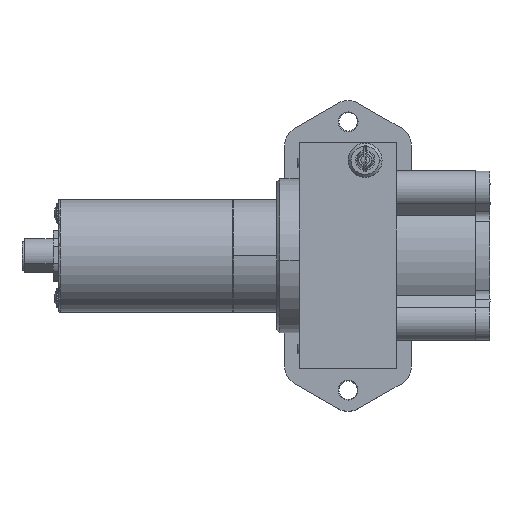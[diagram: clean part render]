
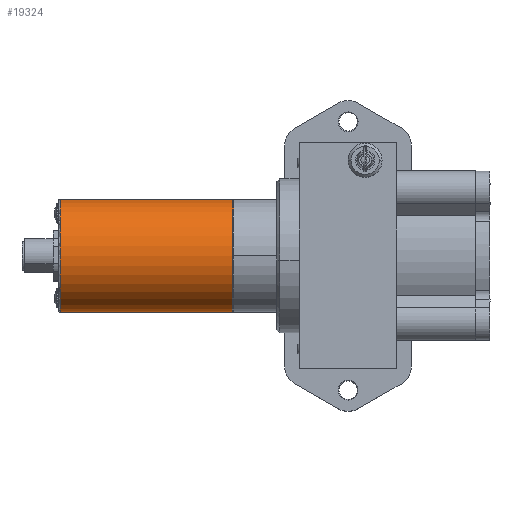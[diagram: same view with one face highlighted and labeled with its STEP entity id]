
A CAD part, top view. The second image highlights one B-rep face of the part: STEP entity #19324.
In plain terms, the highlighted cylindrical face has radius 20 mm (diameter 40 mm), a partial arc.
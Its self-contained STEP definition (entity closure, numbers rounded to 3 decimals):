
#3652 = CYLINDRICAL_SURFACE ( 'NONE', #3714, 20. ) ;
#3673 = FACE_OUTER_BOUND ( 'NONE', #19325, .T. ) ;
#3674 = CARTESIAN_POINT ( 'NONE',  ( -114.23, -20., 0. ) ) ;
#3691 = DIRECTION ( 'NONE',  ( 1., 0., 0. ) ) ;
#3692 = VECTOR ( 'NONE', #3691, 1000. ) ;
#3693 = CARTESIAN_POINT ( 'NONE',  ( -52.73, 20., 0. ) ) ;
#3694 = LINE ( 'NONE', #3693, #3692 ) ;
#3696 = CARTESIAN_POINT ( 'NONE',  ( -52.73, 20., 0. ) ) ;
#3697 = DIRECTION ( 'NONE',  ( 0., 1., 0. ) ) ;
#3698 = DIRECTION ( 'NONE',  ( -1., 0., 0. ) ) ;
#3699 = CARTESIAN_POINT ( 'NONE',  ( -52.73, 0., 0. ) ) ;
#3700 = AXIS2_PLACEMENT_3D ( 'NONE', #3699, #3698, #3697 ) ;
#3701 = CIRCLE ( 'NONE', #3700, 20. ) ;
#3702 = CARTESIAN_POINT ( 'NONE',  ( -52.73, -20., 0. ) ) ;
#3703 = DIRECTION ( 'NONE',  ( 1., 0., 0. ) ) ;
#3704 = VECTOR ( 'NONE', #3703, 1000. ) ;
#3705 = CARTESIAN_POINT ( 'NONE',  ( -52.73, -20., 0. ) ) ;
#3706 = LINE ( 'NONE', #3705, #3704 ) ;
#3707 = DIRECTION ( 'NONE',  ( 0., 1., 0. ) ) ;
#3708 = DIRECTION ( 'NONE',  ( 1., 0., 0. ) ) ;
#3709 = CARTESIAN_POINT ( 'NONE',  ( -114.23, 0., 0. ) ) ;
#3710 = AXIS2_PLACEMENT_3D ( 'NONE', #3709, #3708, #3707 ) ;
#3711 = DIRECTION ( 'NONE',  ( 0., 1., 0. ) ) ;
#3712 = DIRECTION ( 'NONE',  ( 1., 0., 0. ) ) ;
#3713 = CARTESIAN_POINT ( 'NONE',  ( -52.73, 0., 0. ) ) ;
#3714 = AXIS2_PLACEMENT_3D ( 'NONE', #3713, #3712, #3711 ) ;
#3715 = CIRCLE ( 'NONE', #3710, 20. ) ;
#3778 = CARTESIAN_POINT ( 'NONE',  ( -114.23, 20., 0. ) ) ;
#19321 = VERTEX_POINT ( 'NONE', #3674 ) ;
#19324 = ADVANCED_FACE ( 'NONE', ( #3673 ), #3652, .T. ) ;
#19325 = EDGE_LOOP ( 'NONE', ( #19326, #19328, #19331, #19334 ) ) ;
#19326 = ORIENTED_EDGE ( 'NONE', *, *, #19327, .T. ) ;
#19327 = EDGE_CURVE ( 'NONE', #19356, #19321, #3715, .T. ) ;
#19328 = ORIENTED_EDGE ( 'NONE', *, *, #19329, .T. ) ;
#19329 = EDGE_CURVE ( 'NONE', #19321, #19330, #3706, .T. ) ;
#19330 = VERTEX_POINT ( 'NONE', #3702 ) ;
#19331 = ORIENTED_EDGE ( 'NONE', *, *, #19332, .T. ) ;
#19332 = EDGE_CURVE ( 'NONE', #19330, #19333, #3701, .T. ) ;
#19333 = VERTEX_POINT ( 'NONE', #3696 ) ;
#19334 = ORIENTED_EDGE ( 'NONE', *, *, #19335, .F. ) ;
#19335 = EDGE_CURVE ( 'NONE', #19356, #19333, #3694, .T. ) ;
#19356 = VERTEX_POINT ( 'NONE', #3778 ) ;
